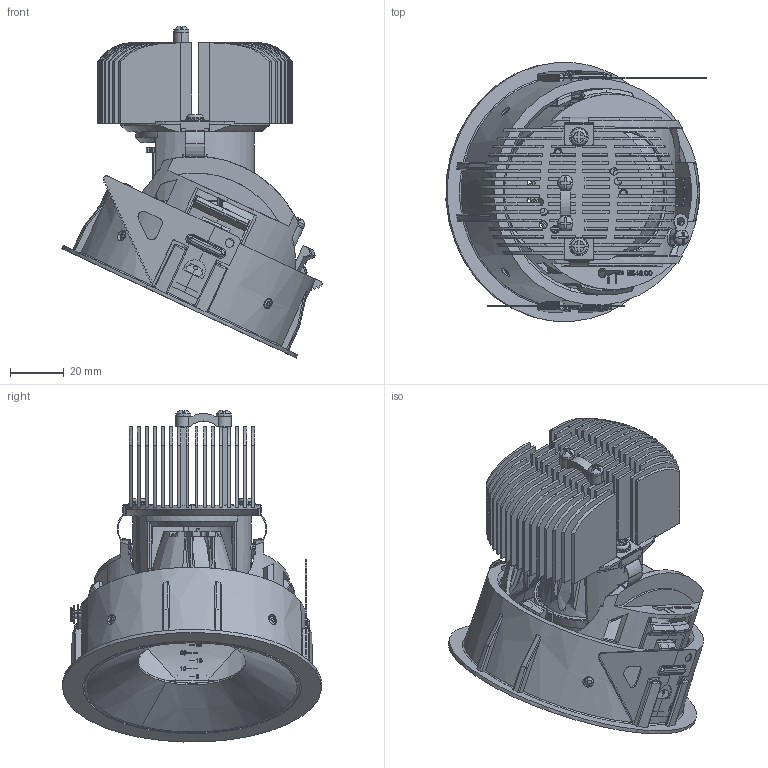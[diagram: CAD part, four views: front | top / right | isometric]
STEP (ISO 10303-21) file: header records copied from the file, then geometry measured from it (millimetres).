
FILE_DESCRIPTION(('CATIA V5 STEP Exchange'),'2;1');
FILE_NAME('C:\Users\stefano.giovinetto\Desktop\X.HP1C - M PRO Adj Round Trim Recessed.stp','2020-10-29T13:42:26+00:00',('none'),('none'),'CATIA Version 5 Release 20 SP 7 (IN-10)','CATIA V5 STEP AP203','none');
FILE_SCHEMA(('CONFIG_CONTROL_DESIGN'));
Products named in the file (1): X.HP1CK
Bounding box: 96.34 x 95.81 x 122.97 mm (x, y, z)
Volume: 124899.9 mm3; surface area: 156600.2 mm2
Topology: 36 solids, 36 shells, 6032 faces, 16864 edges, 10970 vertices
Faces by surface type: plane 3964, cylinder 1096, cone 269, bspline 259, torus 233, extrusion 130, sphere 79, revolution 2
Entity records: 227872 total; most frequent: CARTESIAN_POINT 83814, ORIENTED_EDGE 33542, DIRECTION 23388, EDGE_CURVE 16771, VERTEX_POINT 10970, VECTOR 10497, LINE 10367, AXIS2_PLACEMENT_3D 7441
